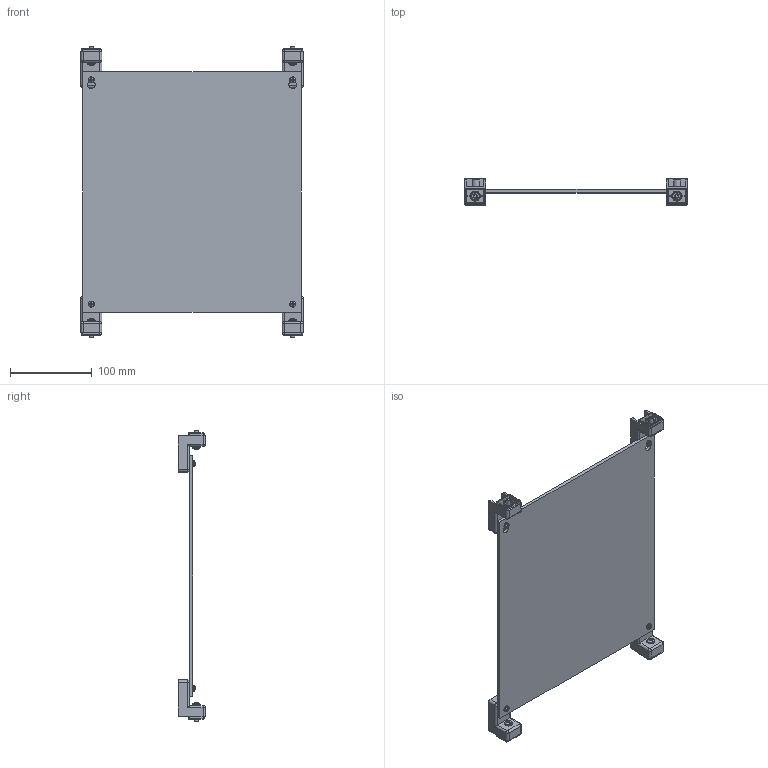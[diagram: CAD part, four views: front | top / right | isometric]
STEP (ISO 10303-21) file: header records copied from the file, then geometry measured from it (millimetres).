
FILE_DESCRIPTION(/* description */ (''),/* implementation_level */ '2;1');
FILE_NAME(/* name */ '4005016.stp',/* time_stamp */ '2019-03-01T17:07:12+01:00',/* author */ (''),/* organization */ (''),/* preprocessor_version */ 'ST-DEVELOPER v16.7',/* originating_system */ 'SIEMENS PLM Software NX 12.0',/* authorisation */ '');
FILE_SCHEMA (('AUTOMOTIVE_DESIGN { 1 0 10303 214 3 1 1 1 }'));
Length unit declared in the file: millimetre
Products named in the file (1): bsom23CC53FBq272
Bounding box: 272 x 33 x 356 mm (x, y, z)
Volume: 360037.2 mm3; surface area: 200543.7 mm2
Topology: 13 solids, 13 shells, 756 faces, 1814 edges, 1084 vertices
Faces by surface type: plane 314, cylinder 194, bspline 96, torus 72, sphere 48, cone 32
Full cylindrical faces by diameter (mm): 3.4 x4, 3.75 x4, 4 x4, 4.3 x2, 5 x4, 5.2 x4, 7.2 x4, 8.5 x4, 9.3 x4, 9.5 x4
Entity records: 23087 total; most frequent: CARTESIAN_POINT 6269, DIRECTION 3522, ORIENTED_EDGE 3376, EDGE_CURVE 1688, AXIS2_PLACEMENT_3D 1349, VERTEX_POINT 1060, EDGE_LOOP 874, LINE 824
